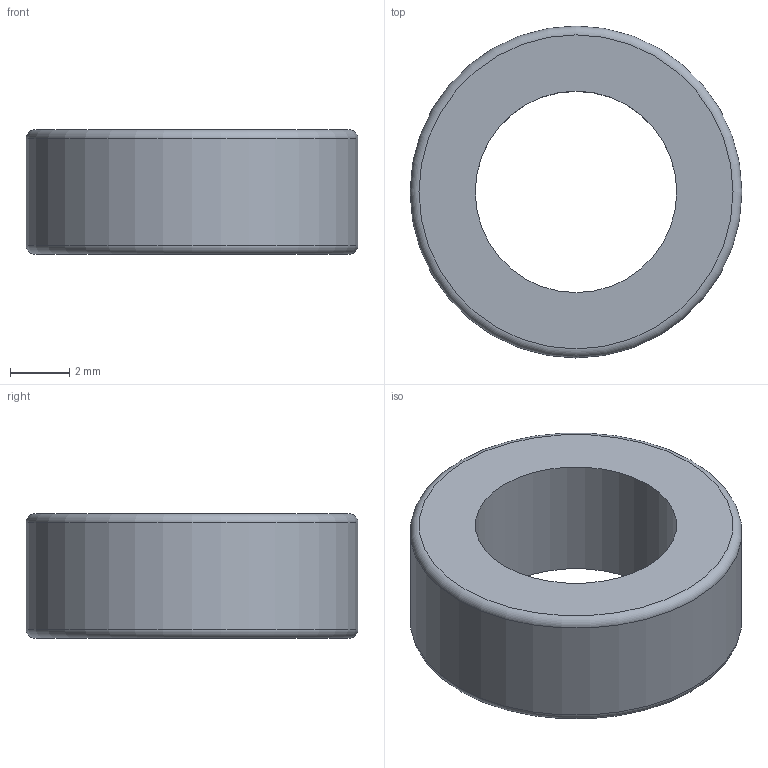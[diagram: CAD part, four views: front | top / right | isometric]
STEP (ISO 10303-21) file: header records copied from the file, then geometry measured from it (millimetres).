
FILE_DESCRIPTION(('Open CASCADE Model'),'2;1');
FILE_NAME('Open CASCADE Shape Model','2026-10-09T16:33:03',('Author'),( 'Open CASCADE'),'Open CASCADE STEP processor 8.0','build123d', 'Unknown');
FILE_SCHEMA(('AUTOMOTIVE_DESIGN { 1 0 10303 214 1 1 1 1 }'));
Length unit declared in the file: millimetre
Products named in the file (1): COMPOUND
Bounding box: 11.2 x 11.2 x 4.2 mm (x, y, z)
Volume: 259.9 mm3; surface area: 352.8 mm2
Topology: 1 solids, 1 shells, 6 faces, 10 edges, 6 vertices
Faces by surface type: cylinder 2, plane 2, torus 2
Full cylindrical faces by diameter (mm): 6.8 x1, 11.2 x1
Entity records: 290 total; most frequent: DIRECTION 52, CARTESIAN_POINT 43, ORIENTED_EDGE 20, PCURVE 20, DEFINITIONAL_REPRESENTATION 20, LINE 18, VECTOR 18, AXIS2_PLACEMENT_3D 15
